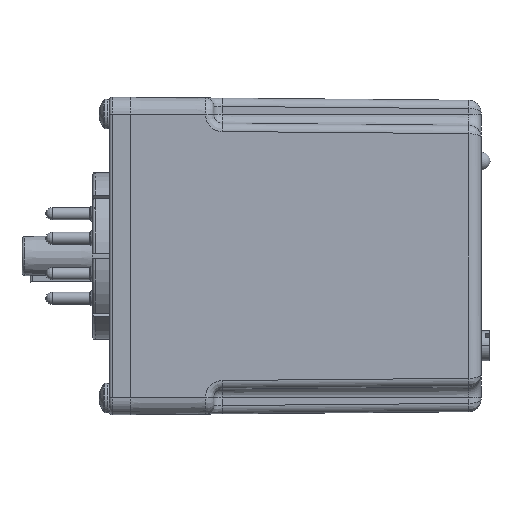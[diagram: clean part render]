
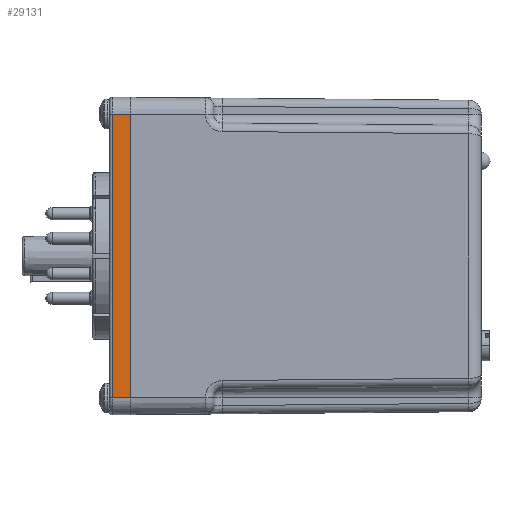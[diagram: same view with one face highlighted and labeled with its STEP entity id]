
A CAD part, left-side view. The second image highlights one B-rep face of the part: STEP entity #29131.
In plain terms, the highlighted planar face has unit normal (-1, 0, 0).
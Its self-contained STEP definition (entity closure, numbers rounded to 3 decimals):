
#8993 = PLANE('',#8994);
#8994 = AXIS2_PLACEMENT_3D('',#8995,#8996,#8997);
#8995 = CARTESIAN_POINT('',(-22.225,31.75,-30.163));
#8996 = DIRECTION('',(0.,1.,0.));
#8997 = DIRECTION('',(1.,0.,-0.));
#15916 = VERTEX_POINT('',#15917);
#15917 = CARTESIAN_POINT('',(-22.225,31.75,26.988));
#15936 = CYLINDRICAL_SURFACE('',#15937,3.175);
#15937 = AXIS2_PLACEMENT_3D('',#15938,#15939,#15940);
#15938 = CARTESIAN_POINT('',(-19.05,31.75,26.988));
#15939 = DIRECTION('',(0.,1.,0.));
#15940 = DIRECTION('',(0.,0.,-1.));
#15948 = EDGE_CURVE('',#15949,#15916,#15951,.T.);
#15949 = VERTEX_POINT('',#15950);
#15950 = CARTESIAN_POINT('',(-22.225,31.75,-26.988));
#15951 = SURFACE_CURVE('',#15952,(#15956,#15963),.PCURVE_S1.);
#15952 = LINE('',#15953,#15954);
#15953 = CARTESIAN_POINT('',(-22.225,31.75,-30.163));
#15954 = VECTOR('',#15955,1.);
#15955 = DIRECTION('',(0.,-0.,1.));
#15956 = PCURVE('',#8993,#15957);
#15957 = DEFINITIONAL_REPRESENTATION('',(#15958),#15962);
#15958 = LINE('',#15959,#15960);
#15959 = CARTESIAN_POINT('',(0.,0.));
#15960 = VECTOR('',#15961,1.);
#15961 = DIRECTION('',(0.,-1.));
#15962 = ( GEOMETRIC_REPRESENTATION_CONTEXT(2) 
PARAMETRIC_REPRESENTATION_CONTEXT() REPRESENTATION_CONTEXT('2D SPACE',''
  ) );
#15963 = PCURVE('',#15964,#15969);
#15964 = PLANE('',#15965);
#15965 = AXIS2_PLACEMENT_3D('',#15966,#15967,#15968);
#15966 = CARTESIAN_POINT('',(-22.225,31.75,-30.163));
#15967 = DIRECTION('',(1.,0.,0.));
#15968 = DIRECTION('',(0.,0.,-1.));
#15969 = DEFINITIONAL_REPRESENTATION('',(#15970),#15974);
#15970 = LINE('',#15971,#15972);
#15971 = CARTESIAN_POINT('',(0.,0.));
#15972 = VECTOR('',#15973,1.);
#15973 = DIRECTION('',(-1.,0.));
#15974 = ( GEOMETRIC_REPRESENTATION_CONTEXT(2) 
PARAMETRIC_REPRESENTATION_CONTEXT() REPRESENTATION_CONTEXT('2D SPACE',''
  ) );
#15997 = CYLINDRICAL_SURFACE('',#15998,3.175);
#15998 = AXIS2_PLACEMENT_3D('',#15999,#16000,#16001);
#15999 = CARTESIAN_POINT('',(-19.05,35.712,-26.988));
#16000 = DIRECTION('',(0.,-1.,0.));
#16001 = DIRECTION('',(0.,0.,1.));
#24210 = CYLINDRICAL_SURFACE('',#24211,0.508);
#24211 = AXIS2_PLACEMENT_3D('',#24212,#24213,#24214);
#24212 = CARTESIAN_POINT('',(-21.717,35.204,-30.163));
#24213 = DIRECTION('',(0.,0.,1.));
#24214 = DIRECTION('',(1.,0.,0.));
#29131 = ADVANCED_FACE('',(#29132),#15964,.F.);
#29132 = FACE_BOUND('',#29133,.T.);
#29133 = EDGE_LOOP('',(#29134,#29157,#29180,#29201));
#29134 = ORIENTED_EDGE('',*,*,#29135,.T.);
#29135 = EDGE_CURVE('',#15916,#29136,#29138,.T.);
#29136 = VERTEX_POINT('',#29137);
#29137 = CARTESIAN_POINT('',(-22.225,35.204,26.988));
#29138 = SURFACE_CURVE('',#29139,(#29143,#29150),.PCURVE_S1.);
#29139 = LINE('',#29140,#29141);
#29140 = CARTESIAN_POINT('',(-22.225,31.75,26.988));
#29141 = VECTOR('',#29142,1.);
#29142 = DIRECTION('',(0.,1.,0.));
#29143 = PCURVE('',#15964,#29144);
#29144 = DEFINITIONAL_REPRESENTATION('',(#29145),#29149);
#29145 = LINE('',#29146,#29147);
#29146 = CARTESIAN_POINT('',(-57.15,0.));
#29147 = VECTOR('',#29148,1.);
#29148 = DIRECTION('',(0.,1.));
#29149 = ( GEOMETRIC_REPRESENTATION_CONTEXT(2) 
PARAMETRIC_REPRESENTATION_CONTEXT() REPRESENTATION_CONTEXT('2D SPACE',''
  ) );
#29150 = PCURVE('',#15936,#29151);
#29151 = DEFINITIONAL_REPRESENTATION('',(#29152),#29156);
#29152 = LINE('',#29153,#29154);
#29153 = CARTESIAN_POINT('',(1.571,0.));
#29154 = VECTOR('',#29155,1.);
#29155 = DIRECTION('',(0.,1.));
#29156 = ( GEOMETRIC_REPRESENTATION_CONTEXT(2) 
PARAMETRIC_REPRESENTATION_CONTEXT() REPRESENTATION_CONTEXT('2D SPACE',''
  ) );
#29157 = ORIENTED_EDGE('',*,*,#29158,.T.);
#29158 = EDGE_CURVE('',#29136,#29159,#29161,.T.);
#29159 = VERTEX_POINT('',#29160);
#29160 = CARTESIAN_POINT('',(-22.225,35.204,-26.988));
#29161 = SURFACE_CURVE('',#29162,(#29166,#29173),.PCURVE_S1.);
#29162 = LINE('',#29163,#29164);
#29163 = CARTESIAN_POINT('',(-22.225,35.204,-30.163));
#29164 = VECTOR('',#29165,1.);
#29165 = DIRECTION('',(0.,0.,-1.));
#29166 = PCURVE('',#15964,#29167);
#29167 = DEFINITIONAL_REPRESENTATION('',(#29168),#29172);
#29168 = LINE('',#29169,#29170);
#29169 = CARTESIAN_POINT('',(0.,3.454));
#29170 = VECTOR('',#29171,1.);
#29171 = DIRECTION('',(1.,0.));
#29172 = ( GEOMETRIC_REPRESENTATION_CONTEXT(2) 
PARAMETRIC_REPRESENTATION_CONTEXT() REPRESENTATION_CONTEXT('2D SPACE',''
  ) );
#29173 = PCURVE('',#24210,#29174);
#29174 = DEFINITIONAL_REPRESENTATION('',(#29175),#29179);
#29175 = LINE('',#29176,#29177);
#29176 = CARTESIAN_POINT('',(3.142,0.));
#29177 = VECTOR('',#29178,1.);
#29178 = DIRECTION('',(0.,-1.));
#29179 = ( GEOMETRIC_REPRESENTATION_CONTEXT(2) 
PARAMETRIC_REPRESENTATION_CONTEXT() REPRESENTATION_CONTEXT('2D SPACE',''
  ) );
#29180 = ORIENTED_EDGE('',*,*,#29181,.T.);
#29181 = EDGE_CURVE('',#29159,#15949,#29182,.T.);
#29182 = SURFACE_CURVE('',#29183,(#29187,#29194),.PCURVE_S1.);
#29183 = LINE('',#29184,#29185);
#29184 = CARTESIAN_POINT('',(-22.225,31.75,-26.988));
#29185 = VECTOR('',#29186,1.);
#29186 = DIRECTION('',(0.,-1.,0.));
#29187 = PCURVE('',#15964,#29188);
#29188 = DEFINITIONAL_REPRESENTATION('',(#29189),#29193);
#29189 = LINE('',#29190,#29191);
#29190 = CARTESIAN_POINT('',(-3.175,0.));
#29191 = VECTOR('',#29192,1.);
#29192 = DIRECTION('',(0.,-1.));
#29193 = ( GEOMETRIC_REPRESENTATION_CONTEXT(2) 
PARAMETRIC_REPRESENTATION_CONTEXT() REPRESENTATION_CONTEXT('2D SPACE',''
  ) );
#29194 = PCURVE('',#15997,#29195);
#29195 = DEFINITIONAL_REPRESENTATION('',(#29196),#29200);
#29196 = LINE('',#29197,#29198);
#29197 = CARTESIAN_POINT('',(1.571,3.962));
#29198 = VECTOR('',#29199,1.);
#29199 = DIRECTION('',(0.,1.));
#29200 = ( GEOMETRIC_REPRESENTATION_CONTEXT(2) 
PARAMETRIC_REPRESENTATION_CONTEXT() REPRESENTATION_CONTEXT('2D SPACE',''
  ) );
#29201 = ORIENTED_EDGE('',*,*,#15948,.T.);
